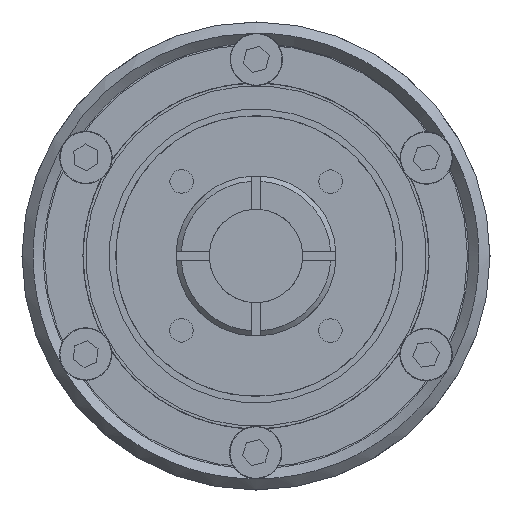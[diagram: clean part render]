
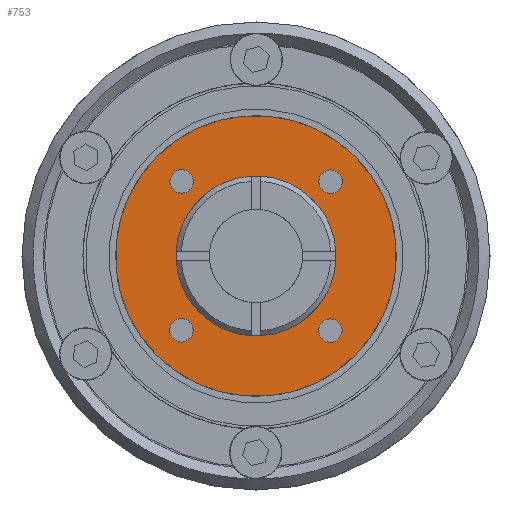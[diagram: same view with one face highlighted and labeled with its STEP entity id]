
A CAD part, left-side view. The second image highlights one B-rep face of the part: STEP entity #753.
In plain terms, the highlighted planar face has unit normal (-1, 0, 0) as drawn and (0, -1, 0) by its records, which use the part's own axes.
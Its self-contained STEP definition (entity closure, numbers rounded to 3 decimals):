
#753 = ADVANCED_FACE( '', ( #1395, #1396, #1397, #1398, #1399, #1400 ), #1401, .F. );
#1395 = FACE_OUTER_BOUND( '', #2211, .T. );
#1396 = FACE_BOUND( '', #2212, .T. );
#1397 = FACE_BOUND( '', #2213, .T. );
#1398 = FACE_BOUND( '', #2214, .T. );
#1399 = FACE_BOUND( '', #2215, .T. );
#1400 = FACE_BOUND( '', #2216, .T. );
#1401 = PLANE( '', #2217 );
#2211 = EDGE_LOOP( '', ( #3793 ) );
#2212 = EDGE_LOOP( '', ( #3794 ) );
#2213 = EDGE_LOOP( '', ( #3795 ) );
#2214 = EDGE_LOOP( '', ( #3796 ) );
#2215 = EDGE_LOOP( '', ( #3797 ) );
#2216 = EDGE_LOOP( '', ( #3798 ) );
#2217 = AXIS2_PLACEMENT_3D( '', #3799, #3800, #3801 );
#3793 = ORIENTED_EDGE( '', *, *, #5064, .T. );
#3794 = ORIENTED_EDGE( '', *, *, #5069, .F. );
#3795 = ORIENTED_EDGE( '', *, *, #5065, .F. );
#3796 = ORIENTED_EDGE( '', *, *, #5067, .F. );
#3797 = ORIENTED_EDGE( '', *, *, #5070, .F. );
#3798 = ORIENTED_EDGE( '', *, *, #5071, .F. );
#3799 = CARTESIAN_POINT( '', ( 0., 0., 15. ) );
#3800 = DIRECTION( '', ( 0., 1., 0. ) );
#3801 = DIRECTION( '', ( 1., 0., 0. ) );
#5064 = EDGE_CURVE( '', #5921, #5921, #5922, .T. );
#5065 = EDGE_CURVE( '', #5923, #5923, #5924, .T. );
#5067 = EDGE_CURVE( '', #5927, #5927, #5928, .T. );
#5069 = EDGE_CURVE( '', #5931, #5931, #5932, .T. );
#5070 = EDGE_CURVE( '', #5933, #5933, #5934, .T. );
#5071 = EDGE_CURVE( '', #5935, #5935, #5936, .T. );
#5921 = VERTEX_POINT( '', #7309 );
#5922 = CIRCLE( '', #7310, 15. );
#5923 = VERTEX_POINT( '', #7311 );
#5924 = CIRCLE( '', #7312, 1.25 );
#5927 = VERTEX_POINT( '', #7315 );
#5928 = CIRCLE( '', #7316, 1.25 );
#5931 = VERTEX_POINT( '', #7319 );
#5932 = CIRCLE( '', #7320, 1.25 );
#5933 = VERTEX_POINT( '', #7321 );
#5934 = CIRCLE( '', #7322, 1.25 );
#5935 = VERTEX_POINT( '', #7323 );
#5936 = CIRCLE( '', #7324, 8.5 );
#7309 = CARTESIAN_POINT( '', ( 0., 0., -15. ) );
#7310 = AXIS2_PLACEMENT_3D( '', #8882, #8883, #8884 );
#7311 = CARTESIAN_POINT( '', ( -1.25, 0., -11.25 ) );
#7312 = AXIS2_PLACEMENT_3D( '', #8885, #8886, #8887 );
#7315 = CARTESIAN_POINT( '', ( 11.25, 0., -1.25 ) );
#7316 = AXIS2_PLACEMENT_3D( '', #8891, #8892, #8893 );
#7319 = CARTESIAN_POINT( '', ( -11.25, 0., 1.25 ) );
#7320 = AXIS2_PLACEMENT_3D( '', #8897, #8898, #8899 );
#7321 = CARTESIAN_POINT( '', ( 1.25, 0., 11.25 ) );
#7322 = AXIS2_PLACEMENT_3D( '', #8900, #8901, #8902 );
#7323 = CARTESIAN_POINT( '', ( 0., 0., -8.5 ) );
#7324 = AXIS2_PLACEMENT_3D( '', #8903, #8904, #8905 );
#8882 = CARTESIAN_POINT( '', ( 0., 0., 0. ) );
#8883 = DIRECTION( '', ( 0., -1., 0. ) );
#8884 = DIRECTION( '', ( 0., 0., -1. ) );
#8885 = CARTESIAN_POINT( '', ( 0., 0., -11.25 ) );
#8886 = DIRECTION( '', ( 0., -1., 0. ) );
#8887 = DIRECTION( '', ( -1., 0., 0. ) );
#8891 = CARTESIAN_POINT( '', ( 11.25, 0., 0. ) );
#8892 = DIRECTION( '', ( 0., -1., 0. ) );
#8893 = DIRECTION( '', ( 0., 0., -1. ) );
#8897 = CARTESIAN_POINT( '', ( -11.25, 0., 0. ) );
#8898 = DIRECTION( '', ( 0., -1., 0. ) );
#8899 = DIRECTION( '', ( 0., 0., 1. ) );
#8900 = CARTESIAN_POINT( '', ( 0., 0., 11.25 ) );
#8901 = DIRECTION( '', ( 0., -1., 0. ) );
#8902 = DIRECTION( '', ( 1., 0., 0. ) );
#8903 = CARTESIAN_POINT( '', ( 0., 0., 0. ) );
#8904 = DIRECTION( '', ( 0., -1., 0. ) );
#8905 = DIRECTION( '', ( 0., 0., -1. ) );
